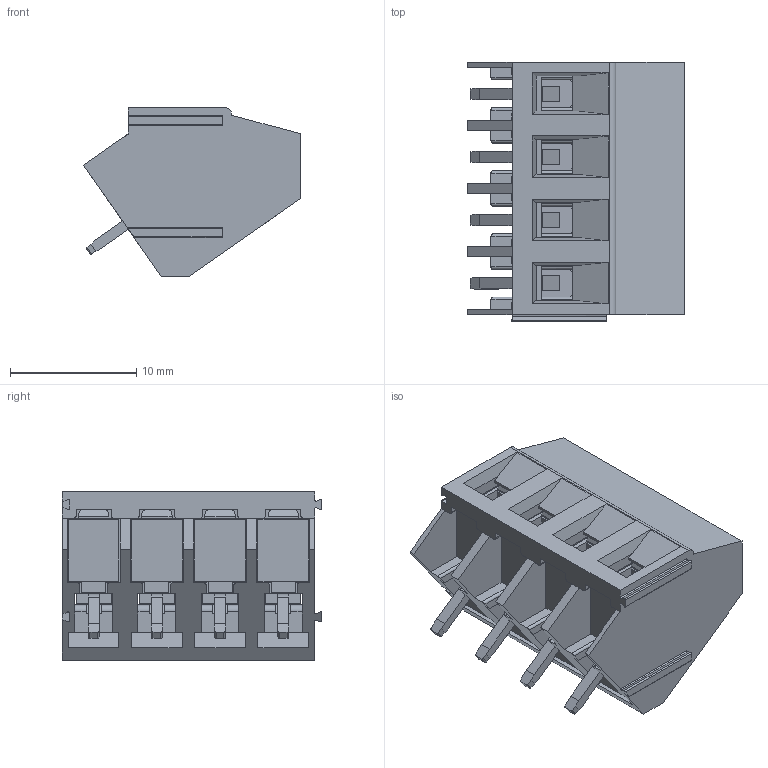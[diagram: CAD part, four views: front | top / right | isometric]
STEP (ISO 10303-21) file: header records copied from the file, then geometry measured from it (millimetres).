
FILE_DESCRIPTION((''),'2;1');
FILE_NAME('4PIN','2021-04-08T',('renkang.li'),(''),'CREO PARAMETRIC BY PTC INC, 2016260','CREO PARAMETRIC BY PTC INC, 2016260','');
FILE_SCHEMA(('CONFIG_CONTROL_DESIGN'));
Products named in the file (1): 4PIN
Bounding box: 17.17 x 20.56 x 13.33 mm (x, y, z)
Volume: 1879.7 mm3; surface area: 4340.5 mm2
Topology: 1 solids, 1 shells, 890 faces, 2682 edges, 1788 vertices
Faces by surface type: plane 539, cylinder 247, bspline 64, torus 24, cone 16
Entity records: 44586 total; most frequent: CARTESIAN_POINT 21308, ORIENTED_EDGE 5364, DIRECTION 4132, EDGE_CURVE 2682, VERTEX_POINT 1788, VECTOR 1684, LINE 1684, AXIS2_PLACEMENT_3D 1224
